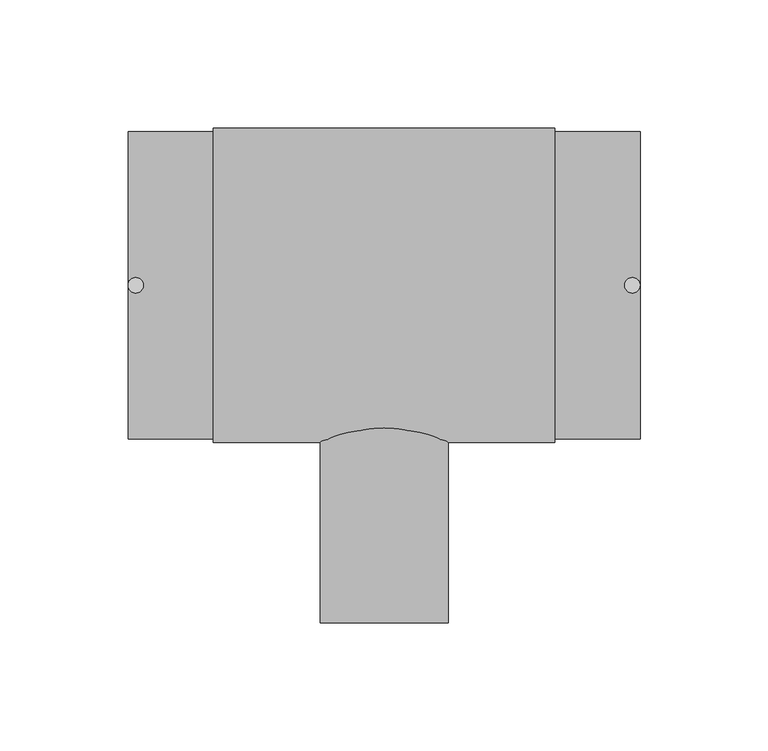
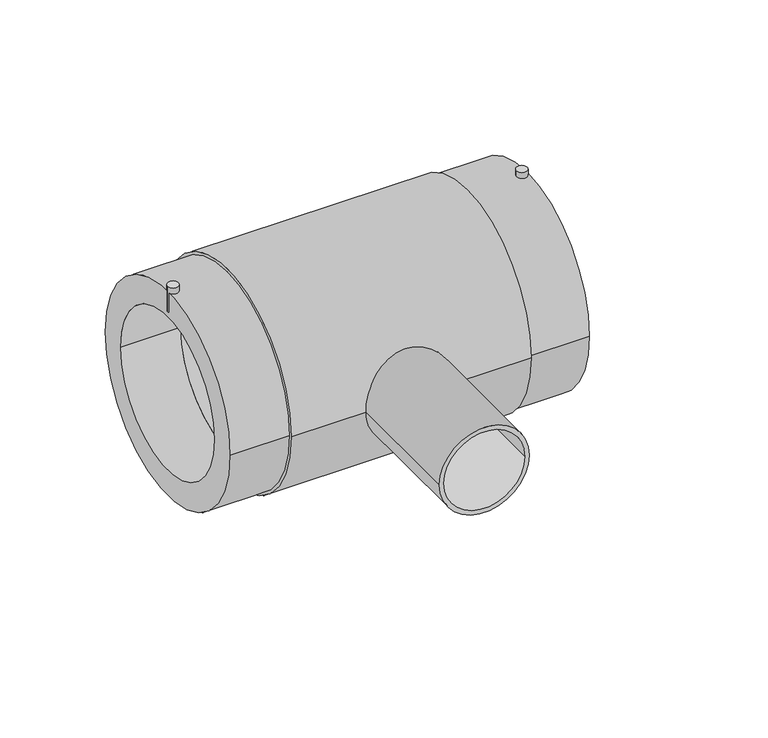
"""IFC4 building model written with IfcOpenShell, lengths in millimetres: pipe fitting geometry, EGB_VASEN_ PPR_Te electrosoldable WXRD300_Te reducida electrosoldable WXRD310 : Te electrosoldable."""

import ifcopenshell
import ifcopenshell.guid

model = None  # the IFC model being written
_history = None  # IfcOwnerHistory: only IFC2X3 demands one
_inside = {}  # id of a spatial element -> (the spatial element, [elements in it])
_under = {}  # id of a project, library or spatial element -> (it, [spatial elements below it])
_declared = {}  # id of a project -> (the project, [libraries it declares])
_typed = {}  # id of a type object -> (the type object, [elements of that type])
_made_of = {}  # id of a material, layer set ... -> (it, [elements and type objects made of it])


def new_model(schema):
    """Start an empty IFC model of exactly this schema.

    Asked for "IFC4X3", IfcOpenShell would pick the latest addendum, in which some entities
    have other attributes; the version numbers below select the first issue.
    IFC2X3 requires an IfcOwnerHistory on every rooted entity: one is made here for all.
    """
    global model, _history
    if schema == "IFC4X3":
        model = ifcopenshell.file(schema_version=(4, 3, 0, 0))
    else:
        model = ifcopenshell.file(schema=schema)
    _inside.clear()
    _under.clear()
    _declared.clear()
    _typed.clear()
    _made_of.clear()
    _history = None
    if model.schema == "IFC2X3":
        org = make("IfcOrganization", Name="unknown")
        user = make(
            "IfcPersonAndOrganization",
            ThePerson=make("IfcPerson", FamilyName="unknown"),
            TheOrganization=org,
        )
        app = make(
            "IfcApplication",
            ApplicationDeveloper=org,
            Version="unknown",
            ApplicationFullName="unknown",
            ApplicationIdentifier="unknown",
        )
        _history = make(
            "IfcOwnerHistory",
            OwningUser=user,
            OwningApplication=app,
            ChangeAction="ADDED",
            CreationDate=0,
        )
    return model


def make(cls, **values):
    """One entity of the class cls with the attributes given. An attribute that is None is left unset."""
    return model.create_entity(
        cls, **{name: value for name, value in values.items() if value is not None}
    )


def rooted(cls, **values):
    """An entity with a GlobalId (a new one), such as an element, a storey or a relation."""
    return make(cls, GlobalId=ifcopenshell.guid.new(), OwnerHistory=_history, **values)


def si_unit(unit_type, name, prefix=None):
    """IfcSIUnit, for example si_unit("LENGTHUNIT", "METRE", prefix="MILLI")."""
    return make("IfcSIUnit", UnitType=unit_type, Prefix=prefix, Name=name)


def assignment(units):
    """IfcUnitAssignment: the units of a project."""
    return None if units is None else make("IfcUnitAssignment", Units=units)


def point(xyz):
    """IfcCartesianPoint."""
    return None if xyz is None else make("IfcCartesianPoint", Coordinates=xyz)


def direction(xyz):
    """IfcDirection."""
    return None if xyz is None else make("IfcDirection", DirectionRatios=xyz)


def frame(location, z_axis=None, x_axis=None):
    """IfcAxis2Placement3D, a coordinate frame: its origin and axes. An axis left out is left unset."""
    return make(
        "IfcAxis2Placement3D",
        Location=point(location),
        Axis=direction(z_axis),
        RefDirection=direction(x_axis),
    )


def frame_2d(location, x_axis=None):
    """IfcAxis2Placement2D, a coordinate frame in the plane: its origin and x axis."""
    return make(
        "IfcAxis2Placement2D", Location=point(location), RefDirection=direction(x_axis)
    )


def origin():
    """The frame at (0, 0, 0) with its axes left unset."""
    return frame((0.0, 0.0, 0.0))


def origin_2d():
    """The frame at (0, 0) in the plane with its x axis left unset."""
    return frame_2d((0.0, 0.0))


def place(relative_to, where):
    """IfcLocalPlacement: puts the frame where relative to a parent placement (None: the world)."""
    return make(
        "IfcLocalPlacement", PlacementRelTo=relative_to, RelativePlacement=where
    )


def context(
    kind, dimensions, precision=None, world=None, true_north=None, identifier=None
):
    """IfcGeometricRepresentationContext, for example the 3D "Model" context."""
    return make(
        "IfcGeometricRepresentationContext",
        ContextIdentifier=identifier,
        ContextType=kind,
        CoordinateSpaceDimension=dimensions,
        Precision=precision,
        WorldCoordinateSystem=world,
        TrueNorth=true_north,
    )


def project(units=None, contexts=None):
    """IfcProject with its units and contexts."""
    return rooted(
        "IfcProject",
        Name="project",
        RepresentationContexts=contexts,
        UnitsInContext=assignment(units),
    )


def spatial(cls, under=None, at=None, **own):
    """A site, building, storey or space (cls), placed at a placement, below another one or the project."""
    s = rooted(cls, ObjectPlacement=at, **own)
    if under is not None:
        _under.setdefault(under.id(), (under, []))[1].append(s)
    return s


def circle_curve(where, radius):
    """IfcCircle in the frame where."""
    return make("IfcCircle", Position=where, Radius=radius)


def trimmed(basis, trim1, trim2, sense, master):
    """IfcTrimmedCurve: the piece of a basis curve between two trims."""
    return make(
        "IfcTrimmedCurve",
        BasisCurve=basis,
        Trim1=trim1,
        Trim2=trim2,
        SenseAgreement=sense,
        MasterRepresentation=master,
    )


def segment(curve, same_sense, transition):
    """IfcCompositeCurveSegment."""
    return make(
        "IfcCompositeCurveSegment",
        Transition=transition,
        SameSense=same_sense,
        ParentCurve=curve,
    )


def composite_curve(segments, self_intersect=None):
    """IfcCompositeCurve: segments joined end to end."""
    return make("IfcCompositeCurve", Segments=segments, SelfIntersect=self_intersect)


def outline(outer, holes=None, kind="AREA"):
    """IfcArbitraryClosedProfileDef: a profile drawn as a closed curve; with holes, ...WithVoids."""
    if holes is None:
        return make("IfcArbitraryClosedProfileDef", ProfileType=kind, OuterCurve=outer)
    return make(
        "IfcArbitraryProfileDefWithVoids",
        ProfileType=kind,
        OuterCurve=outer,
        InnerCurves=holes,
    )


def extrude(swept, where, along, depth):
    """IfcExtrudedAreaSolid: the profile swept, set in the frame where, extruded along a direction by depth."""
    return make(
        "IfcExtrudedAreaSolid",
        SweptArea=swept,
        Position=where,
        ExtrudedDirection=direction(along),
        Depth=depth,
    )


def shape(context_of_items, identifier, shape_type, items):
    """IfcShapeRepresentation: the items that make up one representation, for example the "Body"."""
    return make(
        "IfcShapeRepresentation",
        ContextOfItems=context_of_items,
        RepresentationIdentifier=identifier,
        RepresentationType=shape_type,
        Items=items,
    )


def source(mapping_origin, context_of_items, identifier, shape_type, items):
    """IfcRepresentationMap: a shape defined once, which mapped items show again and again."""
    return make(
        "IfcRepresentationMap",
        MappingOrigin=mapping_origin,
        MappedRepresentation=shape(context_of_items, identifier, shape_type, items),
    )


def transform(
    local_origin,
    x_axis=None,
    y_axis=None,
    z_axis=None,
    scale=None,
    scale2=None,
    scale3=None,
    uniform=True,
):
    """IfcCartesianTransformationOperator3D, or its non-uniform kind. x_axis, y_axis, z_axis: its Axis1, 2, 3."""
    if uniform:
        return make(
            "IfcCartesianTransformationOperator3D",
            Axis1=direction(x_axis),
            Axis2=direction(y_axis),
            LocalOrigin=point(local_origin),
            Scale=scale,
            Axis3=direction(z_axis),
        )
    return make(
        "IfcCartesianTransformationOperator3DnonUniform",
        Axis1=direction(x_axis),
        Axis2=direction(y_axis),
        LocalOrigin=point(local_origin),
        Scale=scale,
        Axis3=direction(z_axis),
        Scale2=scale2,
        Scale3=scale3,
    )


def mapped(mapping_source, mapping_target):
    """IfcMappedItem: shows the shape of a source again, moved by a transform."""
    return make(
        "IfcMappedItem", MappingSource=mapping_source, MappingTarget=mapping_target
    )


def made_of(thing, what):
    """Note that an element or type object is made of a material, layer set ...; save() writes the relation."""
    if what is not None:
        _made_of.setdefault(what.id(), (what, []))[1].append(thing)
    return thing


def element(
    cls,
    number,
    at=None,
    inside=None,
    cuts=None,
    type_object=None,
    material=None,
    context=None,
    identifier="Body",
    shape_type=None,
    held_by="IfcProductDefinitionShape",
    body=None,
    shapes=None,
    **own,
):
    """One element of the class cls, such as IfcWall. Its Tag is "e" and its number.

    at: its placement. inside: the storey or other place that contains it. cuts: it is an
    opening in that element (IfcRelVoidsElement). A single representation is given by context,
    identifier, shape_type and body (its items); several are given by shapes. held_by: the class
    of the entity that holds the representations. save() writes the other relations.
    """
    e = rooted(cls, Tag="e%d" % number, ObjectPlacement=at, **own)
    if body is not None:
        shapes = [shape(context, identifier, shape_type, body)]
    if shapes is not None:
        e.Representation = make(held_by, Representations=shapes)
    if inside is not None:
        _inside.setdefault(inside.id(), (inside, []))[1].append(e)
    if cuts is not None:
        rooted(
            "IfcRelVoidsElement", RelatingBuildingElement=cuts, RelatedOpeningElement=e
        )
    if type_object is not None:
        _typed.setdefault(type_object.id(), (type_object, []))[1].append(e)
    return made_of(e, material)


def aggregate(whole, parts):
    """IfcRelAggregates: a whole, such as a stair, and the parts it consists of."""
    return rooted("IfcRelAggregates", RelatingObject=whole, RelatedObjects=parts)


def save(model, path):
    """Write the relations noted so far, then the file.

    IfcRelAggregates (storeys below a building ...), IfcRelContainedInSpatialStructure (elements
    in a storey), IfcRelDefinesByType, IfcRelAssociatesMaterial and IfcRelDeclares: one each for
    every whole, place, type object, material and project.
    """
    for whole, parts in _under.values():
        aggregate(whole, parts)
    for where, things in _inside.values():
        rooted(
            "IfcRelContainedInSpatialStructure",
            RelatedElements=things,
            RelatingStructure=where,
        )
    for kind, things in _typed.values():
        rooted("IfcRelDefinesByType", RelatedObjects=things, RelatingType=kind)
    for what, things in _made_of.values():
        rooted("IfcRelAssociatesMaterial", RelatedObjects=things, RelatingMaterial=what)
    for by, libraries in _declared.values():
        rooted("IfcRelDeclares", RelatingContext=by, RelatedDefinitions=libraries)
    model.write(path)


def pipe_fitting_0b13e0fa(model_context):
    return source(origin(), model_context, "Body", "SweptSolid", [
        extrude(outline(composite_curve([segment(trimmed(circle_curve(frame_2d((-97.0, 0.0)), 3.0), [point((-100.0, 0.0))], [point((-94.0, 0.0))], False, "CARTESIAN"), True, "CONTINUOUS"), segment(trimmed(circle_curve(frame_2d((-97.0, 0.0)), 3.0), [point((-94.0, 0.0))], [point((-100.0, 0.0))], False, "CARTESIAN"), True, "CONTINUOUS")], self_intersect=False)), frame((0.0, 0.0, 48.0), z_axis=(0.0, 0.0, 1.0), x_axis=(1.0, 0.0, 0.0)), (0.0, 0.0, 1.0), 15.0),
        extrude(outline(composite_curve([segment(trimmed(circle_curve(frame_2d((97.0, 0.0)), 3.0), [point((94.0, 0.0))], [point((100.0, 0.0))], False, "CARTESIAN"), True, "CONTINUOUS"), segment(trimmed(circle_curve(frame_2d((97.0, 0.0)), 3.0), [point((100.0, 0.0))], [point((94.0, 0.0))], False, "CARTESIAN"), True, "CONTINUOUS")], self_intersect=False)), frame((0.0, 0.0, 48.0), z_axis=(0.0, 0.0, 1.0), x_axis=(1.0, 0.0, 0.0)), (0.0, 0.0, 1.0), 15.0),
        extrude(outline(composite_curve([segment(trimmed(circle_curve(origin_2d(), 27.5), [point((0.0, 27.5))], [point((0.0, -27.5))], False, "CARTESIAN"), True, "CONTINUOUS"), segment(trimmed(circle_curve(origin_2d(), 27.5), [point((0.0, -27.5))], [point((0.0, 27.5))], False, "CARTESIAN"), True, "CONTINUOUS")], self_intersect=False)), frame((0.0, -52.8, 0.0), z_axis=(0.0, 1.0, 0.0), x_axis=(0.0, 0.0, 1.0)), (0.0, 0.0, 1.0), 52.8),
        extrude(outline(composite_curve([segment(trimmed(circle_curve(origin_2d(), 25.0), [point((0.0, -25.0))], [point((0.0, 25.0))], False, "CARTESIAN"), True, "CONTINUOUS"), segment(trimmed(circle_curve(origin_2d(), 25.0), [point((0.0, 25.0))], [point((0.0, -25.0))], False, "CARTESIAN"), True, "CONTINUOUS")], self_intersect=False), holes=[composite_curve([segment(trimmed(circle_curve(origin_2d(), 22.5), [point((0.0, -22.5))], [point((0.0, 22.5))], True, "CARTESIAN"), True, "CONTINUOUS"), segment(trimmed(circle_curve(origin_2d(), 22.5), [point((0.0, 22.5))], [point((0.0, -22.5))], True, "CARTESIAN"), True, "CONTINUOUS")], self_intersect=False)]), frame((0.0, -132.0, 0.0), z_axis=(0.0, 1.0, 0.0), x_axis=(0.0, 0.0, 1.0)), (0.0, 0.0, 1.0), 79.2),
        extrude(outline(composite_curve([segment(trimmed(circle_curve(origin_2d(), 61.5), [point((-61.5, 0.0))], [point((61.5, 0.0))], False, "CARTESIAN"), True, "CONTINUOUS"), segment(trimmed(circle_curve(origin_2d(), 61.5), [point((61.5, 0.0))], [point((-61.5, 0.0))], False, "CARTESIAN"), True, "CONTINUOUS")], self_intersect=False), holes=[composite_curve([segment(trimmed(circle_curve(origin_2d(), 45.0), [point((-45.0, 0.0))], [point((45.0, 0.0))], True, "CARTESIAN"), True, "CONTINUOUS"), segment(trimmed(circle_curve(origin_2d(), 45.0), [point((45.0, 0.0))], [point((-45.0, 0.0))], True, "CARTESIAN"), True, "CONTINUOUS")], self_intersect=False)]), frame((-66.6666667, 0.0, 0.0), z_axis=(1.0, 0.0, 0.0), x_axis=(0.0, 1.0, 0.0)), (0.0, 0.0, 1.0), 133.3333333),
        extrude(outline(composite_curve([segment(trimmed(circle_curve(origin_2d(), 60.0), [point((-60.0, 0.0))], [point((60.0, 0.0))], False, "CARTESIAN"), True, "CONTINUOUS"), segment(trimmed(circle_curve(origin_2d(), 60.0), [point((60.0, 0.0))], [point((-60.0, 0.0))], False, "CARTESIAN"), True, "CONTINUOUS")], self_intersect=False), holes=[composite_curve([segment(trimmed(circle_curve(origin_2d(), 45.0), [point((-45.0, 0.0))], [point((45.0, 0.0))], True, "CARTESIAN"), True, "CONTINUOUS"), segment(trimmed(circle_curve(origin_2d(), 45.0), [point((45.0, 0.0))], [point((-45.0, 0.0))], True, "CARTESIAN"), True, "CONTINUOUS")], self_intersect=False)]), frame((-100.0, 0.0, 0.0), z_axis=(1.0, 0.0, 0.0), x_axis=(0.0, 1.0, 0.0)), (0.0, 0.0, 1.0), 200.0),
    ])


if __name__ == "__main__":
    model = new_model("IFC4")
    model_context = context("Model", 3, world=origin())
    ifc_project = project(units=[si_unit("LENGTHUNIT", "METRE", prefix="MILLI")], contexts=[model_context])
    site = spatial("IfcSite", under=ifc_project)
    building = spatial("IfcBuilding", under=site)
    placement = place(None, origin())
    pipe_fitting_shape = pipe_fitting_0b13e0fa(model_context)
    element("IfcPipeFitting", 1, ObjectType="EGB_VASEN_ PPR_Te electrosoldable WXRD300_Te reducida electrosoldable WXRD310 : Te electrosoldable", at=placement, inside=building, context=model_context, shape_type="MappedRepresentation", body=[
        mapped(pipe_fitting_shape, transform((0.0, 0.0, 0.0), x_axis=(1.0, 0.0, 0.0), y_axis=(0.0, 1.0, 0.0), z_axis=(0.0, 0.0, 1.0))),
    ])
    save(model, "model.ifc")
